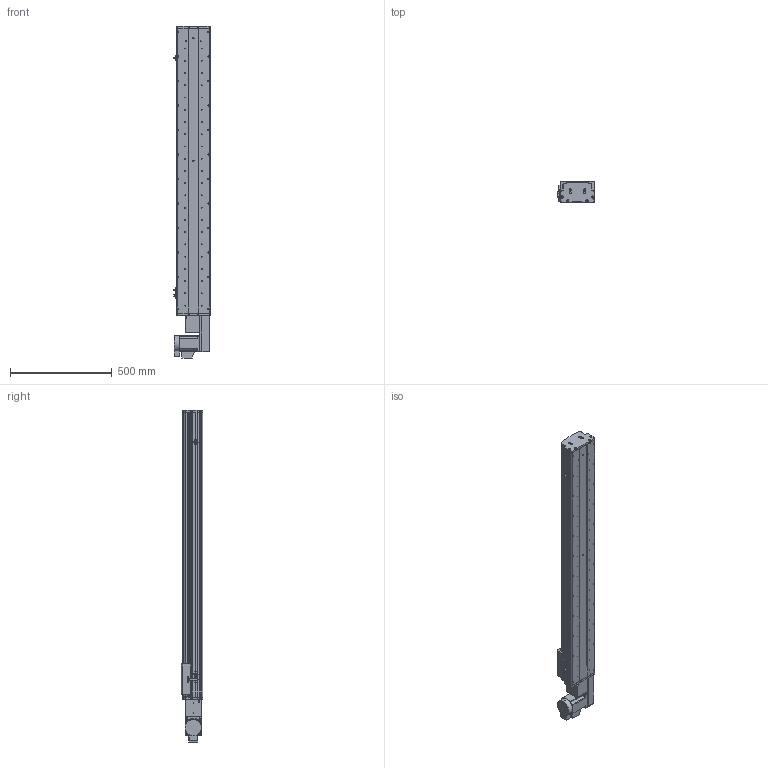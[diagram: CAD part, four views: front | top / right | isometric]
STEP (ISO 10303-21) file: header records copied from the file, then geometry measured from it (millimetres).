
FILE_DESCRIPTION (( 'STEP AP214' ), '1' );
FILE_NAME ('KSD165B-S1150-MRB-CM.STEP', '2017-10-16T09:00:46', ( '微软用户' ), ( '微软中国' ), 'SwSTEP 2.0', 'SolidWorks 2014', '' );
FILE_SCHEMA (( 'AUTOMOTIVE_DESIGN' ));
Length unit declared in the file: millimetre
Products named in the file (17): HTPA26S5M250-A-H8 750W萇儂蚚; HTPA26S5M250-A-H8 400W萇儂蚚 ; 130宽模组马达安装板连板左右折同步带; 130宽模组保护罩上下左右折-同步带; KSD165模组-同步带防尘盖1-1150行程; KSD165模组同步带底板-1150行程; 拸秶雄ん750W侜督萇儂; 165宽马达安装板同步带右; U倰嫖萇假蚾璃; U倰嫖萇EEㄜSX672; 覜茼え68遵圉猾敕; KSD165模组-同步带-防撞垫2; KSD165模组同步带-防撞垫1; KSD165耀郪-ヶ傷啣1-肮祭湍; KSD165模组-后端板1-同步带; KSD165模组-同步带滑动座-最新版; KSD165B-S1150-MRB-CM
Assembly tree (20 placements, depth 2):
  KSD165B-S1150-MRB-CM
    KSD165模组-同步带滑动座-最新版
    KSD165模组-后端板1-同步带
    KSD165耀郪-ヶ傷啣1-肮祭湍
    KSD165模组同步带-防撞垫1
    KSD165模组-同步带-防撞垫2
    覜茼え68遵圉猾敕
    U倰嫖萇EEㄜSX672  x3
    U倰嫖萇假蚾璃  x3
    165宽马达安装板同步带右
    拸秶雄ん750W侜督萇儂
    KSD165模组同步带底板-1150行程
    KSD165模组-同步带防尘盖1-1150行程
    130宽模组保护罩上下左右折-同步带
    130宽模组马达安装板连板左右折同步带
    HTPA26S5M250-A-H8 400W萇儂蚚 
    HTPA26S5M250-A-H8 750W萇儂蚚
Bounding box: 178.7 x 104 x 1627.5 mm (x, y, z)
Volume: 8594851 mm3; surface area: 1999477.5 mm2
Topology: 21 solids, 21 shells, 1993 faces, 5634 edges, 3680 vertices
Faces by surface type: cylinder 1291, plane 590, cone 112
Entity records: 65052 total; most frequent: CARTESIAN_POINT 13336, DIRECTION 10662, ORIENTED_EDGE 9928, EDGE_CURVE 4964, AXIS2_PLACEMENT_3D 4188, VERTEX_POINT 3272, CIRCLE 2392, LINE 2286
